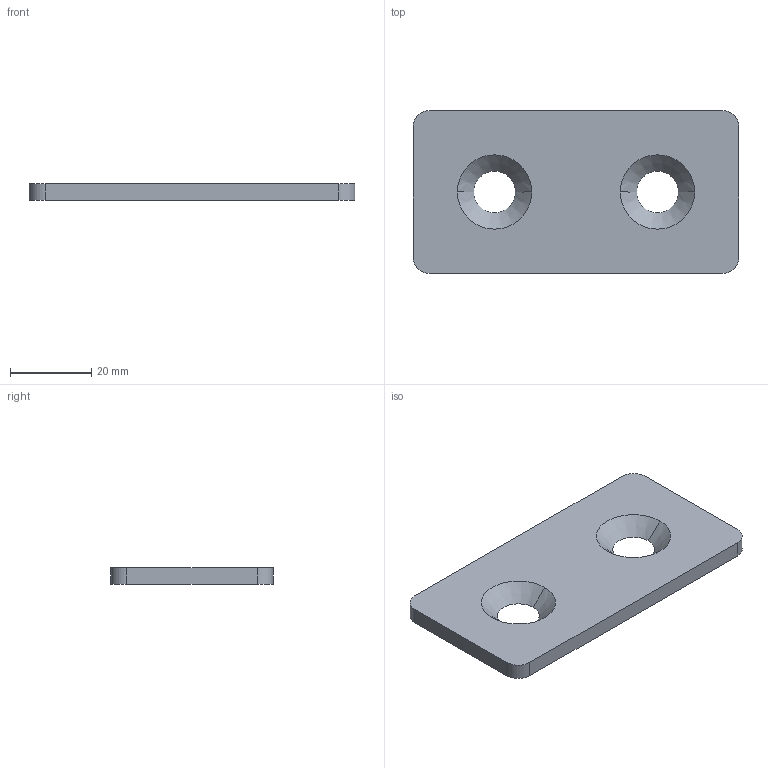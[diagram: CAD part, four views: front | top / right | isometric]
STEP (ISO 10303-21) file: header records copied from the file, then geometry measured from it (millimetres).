
FILE_DESCRIPTION (( 'STEP AP203' ), '1' );
FILE_NAME ('0108LCH40.STEP', '2024-09-04T09:32:28', ( 'Windows-Benutzer' ), ( '' ), 'SwSTEP 2.0', 'SolidWorks 2024', '' );
FILE_SCHEMA (( 'CONFIG_CONTROL_DESIGN' ));
Length unit declared in the file: millimetre
Products named in the file (1): 0108LCH40
Bounding box: 80 x 40 x 4 mm (x, y, z)
Volume: 11435.7 mm3; surface area: 7123.3 mm2
Topology: 1 solids, 1 shells, 14 faces, 36 edges, 24 vertices
Faces by surface type: plane 6, cone 4, cylinder 4
Entity records: 521 total; most frequent: DIRECTION 82, CARTESIAN_POINT 75, ORIENTED_EDGE 72, EDGE_CURVE 36, AXIS2_PLACEMENT_3D 31, VERTEX_POINT 24, VECTOR 20, LINE 20
